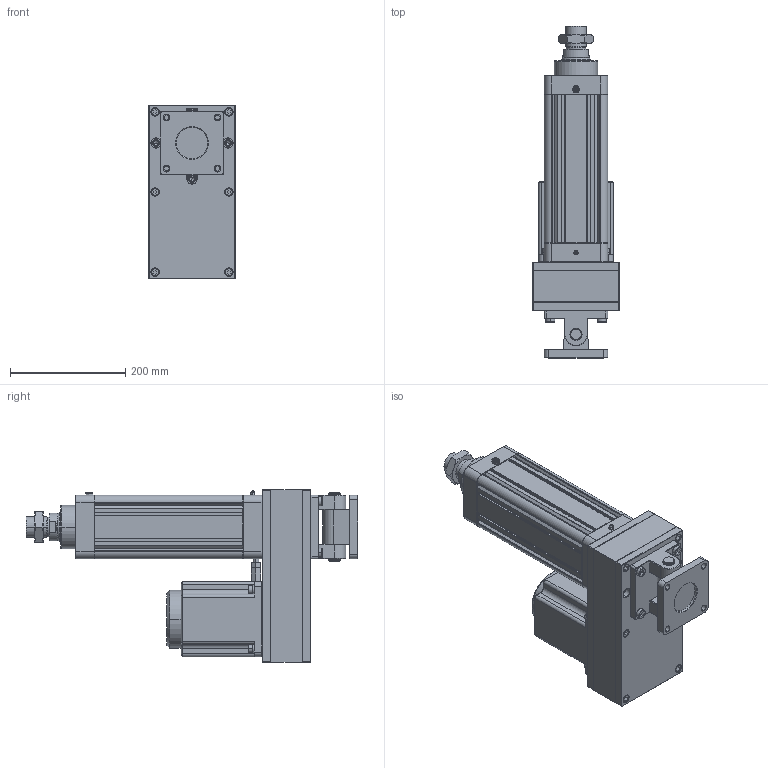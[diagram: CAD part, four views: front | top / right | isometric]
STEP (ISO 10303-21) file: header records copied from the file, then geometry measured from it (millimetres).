
FILE_DESCRIPTION((''),'2;1');
FILE_NAME('HE100-D-P_ASM','2020-05-13T',('ASUS20200'),(''),'CREO PARAMETRIC BY PTC INC, 2014190','CREO PARAMETRIC BY PTC INC, 2014190','');
FILE_SCHEMA(('CONFIG_CONTROL_DESIGN'));
Length unit declared in the file: millimetre
Products named in the file (28): HE100-D-P-001-X1; HE100-D-P-002-X1; HE100-D-P-003-X1; JDB506030; SLM-01; YZ-M6X1; HE100-100-D-P-X1_ASM; HE100-P-010-X1-130N; 130ST-M10010; HE100-P-009-X1-130N; HE100-P-013-X1-130N; TD-8; M8X35; M8X75; LM-M8-7-5; M10X1-25-40; LM-M10-30; LM-M10; HE100-D-P-005-X1; HE100-D-P-004-X1; HE80-D-P-008-X1; LGLM-M10-25; F-SE100CB; F-SE100CB-XD; F-SE100CB_ASM; F-SE100CA; M10X30; HE100-D-P_ASM
Assembly tree (47 placements, depth 3):
  HE100-D-P_ASM
    HE100-100-D-P-X1_ASM
      HE100-D-P-001-X1
      HE100-D-P-002-X1
      HE100-D-P-003-X1
      JDB506030
      SLM-01
      YZ-M6X1
    HE100-P-010-X1-130N
    130ST-M10010
    HE100-P-009-X1-130N
    HE100-P-013-X1-130N
    TD-8  x4
    M8X35  x4
    M8X75  x6
    LM-M8-7-5  x4
    M10X1-25-40
    LM-M10-30
    LM-M10
    HE100-D-P-005-X1
    HE100-D-P-004-X1
    HE80-D-P-008-X1
    LGLM-M10-25  x4
    F-SE100CB_ASM
      F-SE100CB
      F-SE100CB-XD
    F-SE100CA
    M10X30  x4
Bounding box: 150 x 576 x 300 mm (x, y, z)
Volume: 6254173.9 mm3; surface area: 1131764.5 mm2
Topology: 45 solids, 79 shells, 2626 faces, 6078 edges, 3625 vertices
Faces by surface type: plane 959, cone 852, cylinder 699, torus 86, sphere 26, bspline 4
Entity records: 62848 total; most frequent: CARTESIAN_POINT 12025, DIRECTION 11167, ORIENTED_EDGE 9878, EDGE_CURVE 4998, AXIS2_PLACEMENT_3D 4240, VERTEX_POINT 2982, VECTOR 2687, LINE 2687
